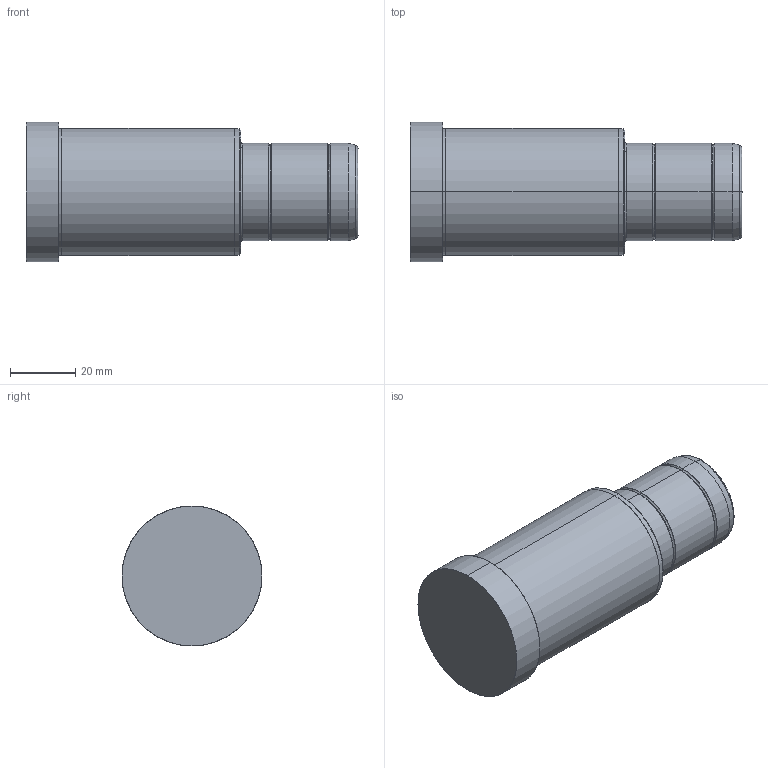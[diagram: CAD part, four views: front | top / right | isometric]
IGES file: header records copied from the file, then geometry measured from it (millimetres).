
Start section: SolidWorks IGES file using analytic representation for surfaces
Global section: file name: C:\Documents and Settings\kalite-mail\Desktop\IGS\D02\30\D02 - 30x66x36.IGS; native system: SolidWorks 2008; preprocessor: SolidWorks 2008; author: kalite-mail; date: 080617.091554; units: millimetre
Bounding box: 102 x 43 x 43 mm (x, y, z)
Surface area: 14468.2 mm2 (no closed solid volume)
Topology: 0 solids, 0 shells, 36 faces, 728 edges, 728 vertices
Faces by surface type: bspline 18, revolution 18
